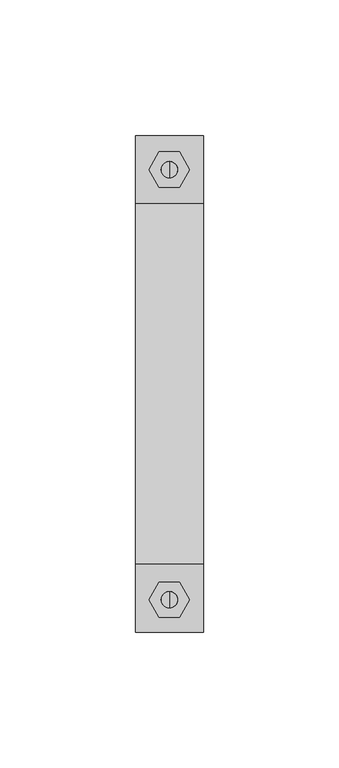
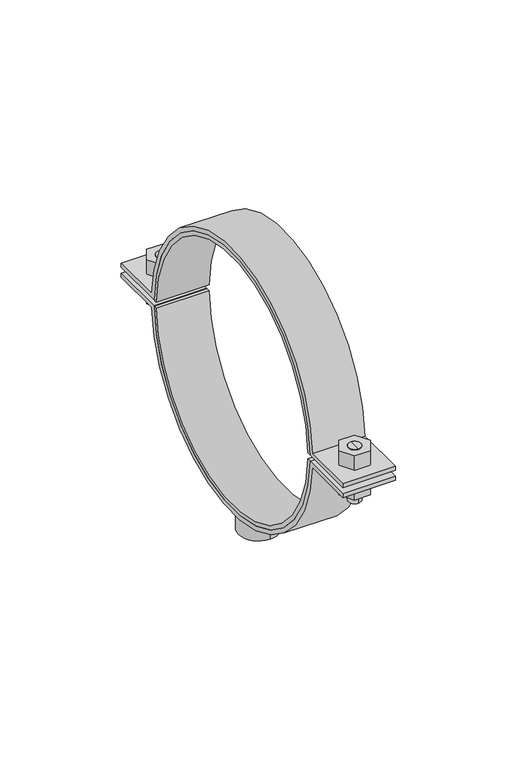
"""IFC4 building model written with IfcOpenShell, lengths in millimetres: valve geometry, Superfix DG2 Clamp Extra (based on pipe) : Superfix DG2 Clamp Extra (based on pipe)."""

from ifc_helpers import new_model, si_unit, point, frame, frame_2d, origin, origin_2d, place, context, project, spatial, polyline, circle_curve, trimmed, segment, composite_curve, outline, extrude, source, transform, mapped, element, save
from ifc_brep_helpers import plane_surface, cylinder_surface, advanced_brep


def valve_e243e0e9(model_context):
    return source(origin(), model_context, "Body", "SolidModel", [
        advanced_brep(
        [(0.0, 82.0, 342.4002332), (0.0, 76.0, 342.4002332), (0.0, 76.0, 357.0002332), (0.0, 82.0, 357.0002332), (0.0, 79.0, 342.4002332)],
        [
            (0, 1, circle_curve(frame((0.0, 79.0, 342.4002332), z_axis=(0.0, 0.0, 1.0), x_axis=(0.0, 1.0, 0.0)), 3.0)),
            (1, 2),
            (2, 3, circle_curve(frame((0.0, 79.0, 357.0002332), z_axis=(0.0, 0.0, -1.0), x_axis=(0.0, 1.0, 0.0)), 3.0)),
            (3, 0),
            (1, 0, circle_curve(frame((0.0, 79.0, 342.4002332), z_axis=(0.0, 0.0, 1.0), x_axis=(0.0, 1.0, 0.0)), 3.0)),
            (3, 2, circle_curve(frame((0.0, 79.0, 357.0002332), z_axis=(0.0, 0.0, -1.0), x_axis=(0.0, 1.0, 0.0)), 3.0)),
            (0, 4),
            (4, 1),
        ],
        [
            cylinder_surface(frame((0.0, 79.0, 356.7808426), z_axis=(0.0, 0.0, 1.0), x_axis=(0.0, 1.0, 0.0)), 3.0),
            plane_surface(frame((0.0, 79.0, 342.4002332), z_axis=(0.0, 0.0, -1.0), x_axis=(0.0, 1.0, 0.0))),
            plane_surface(frame((13.75, -91.5, 357.0002332), z_axis=(0.0, 0.0, 1.0), x_axis=(-1.0, 0.0, 0.0))),
        ],
        [
            (0, [[1, 2, 3, 4]]),
            (0, [[5, -4, 6, -2]]),
            (1, [[-1, 7, 8]]),
            (1, [[-5, -8, -7]]),
            (2, [[-3, -6]]),
        ],
    ),
        advanced_brep(
        [(0.0, 76.0, 369.6002332), (0.0, 82.0, 369.6002332), (0.0, 82.0, 360.0002332), (0.0, 76.0, 360.0002332), (0.0, 79.0, 369.6002332)],
        [
            (0, 1, circle_curve(frame((0.0, 79.0, 369.6002332), z_axis=(0.0, 0.0, -1.0), x_axis=(0.0, 1.0, 0.0)), 3.0)),
            (1, 2),
            (2, 3, circle_curve(frame((0.0, 79.0, 360.0002332), z_axis=(0.0, 0.0, 1.0), x_axis=(0.0, 1.0, 0.0)), 3.0)),
            (3, 0),
            (1, 0, circle_curve(frame((0.0, 79.0, 369.6002332), z_axis=(0.0, 0.0, -1.0), x_axis=(0.0, 1.0, 0.0)), 3.0)),
            (3, 2, circle_curve(frame((0.0, 79.0, 360.0002332), z_axis=(0.0, 0.0, 1.0), x_axis=(0.0, 1.0, 0.0)), 3.0)),
            (0, 4),
            (4, 1),
        ],
        [
            cylinder_surface(frame((0.0, 79.0, 356.7808426), z_axis=(0.0, 0.0, 1.0), x_axis=(0.0, 1.0, 0.0)), 3.0),
            plane_surface(frame((0.0, 79.0, 369.6002332), z_axis=(0.0, 0.0, 1.0), x_axis=(0.0, 1.0, 0.0))),
            plane_surface(frame((13.75, 91.5, 360.0002332), z_axis=(0.0, 0.0, -1.0), x_axis=(-1.0, 0.0, 0.0))),
        ],
        [
            (0, [[1, 2, 3, 4]]),
            (0, [[5, -4, 6, -2]]),
            (1, [[-1, 7, 8]]),
            (1, [[-5, -8, -7]]),
            (2, [[-3, -6]]),
        ],
    ),
        advanced_brep(
        [(0.0, -82.5, 369.6002332), (0.0, -76.5, 369.6002332), (0.0, -76.5, 360.0002332), (0.0, -82.5, 360.0002332), (0.0, -79.5, 369.6002332)],
        [
            (0, 1, circle_curve(frame((0.0, -79.5, 369.6002332), z_axis=(0.0, 0.0, -1.0), x_axis=(0.0, -1.0, 0.0)), 3.0)),
            (1, 2),
            (2, 3, circle_curve(frame((0.0, -79.5, 360.0002332), z_axis=(0.0, 0.0, 1.0), x_axis=(0.0, -1.0, 0.0)), 3.0)),
            (3, 0),
            (1, 0, circle_curve(frame((0.0, -79.5, 369.6002332), z_axis=(0.0, 0.0, -1.0), x_axis=(0.0, -1.0, 0.0)), 3.0)),
            (3, 2, circle_curve(frame((0.0, -79.5, 360.0002332), z_axis=(0.0, 0.0, 1.0), x_axis=(0.0, -1.0, 0.0)), 3.0)),
            (0, 4),
            (4, 1),
        ],
        [
            cylinder_surface(frame((0.0, -79.5, 356.7808426), z_axis=(0.0, 0.0, -1.0), x_axis=(0.0, -1.0, 0.0)), 3.0),
            plane_surface(frame((0.0, -79.5, 369.6002332), z_axis=(0.0, 0.0, 1.0), x_axis=(0.0, -1.0, 0.0))),
            plane_surface(frame((13.75, 91.5, 360.0002332), z_axis=(0.0, 0.0, -1.0), x_axis=(-1.0, 0.0, 0.0))),
        ],
        [
            (0, [[1, 2, 3, 4]]),
            (0, [[5, -4, 6, -2]]),
            (1, [[-1, 7, 8]]),
            (1, [[-5, -8, -7]]),
            (2, [[-3, -6]]),
        ],
    ),
        advanced_brep(
        [(0.0, -76.5, 342.4002332), (0.0, -82.5, 342.4002332), (0.0, -82.5, 357.0002332), (0.0, -76.5, 357.0002332), (0.0, -79.5, 342.4002332)],
        [
            (0, 1, circle_curve(frame((0.0, -79.5, 342.4002332), z_axis=(0.0, 0.0, 1.0), x_axis=(0.0, -1.0, 0.0)), 3.0)),
            (1, 2),
            (2, 3, circle_curve(frame((0.0, -79.5, 357.0002332), z_axis=(0.0, 0.0, -1.0), x_axis=(0.0, -1.0, 0.0)), 3.0)),
            (3, 0),
            (1, 0, circle_curve(frame((0.0, -79.5, 342.4002332), z_axis=(0.0, 0.0, 1.0), x_axis=(0.0, -1.0, 0.0)), 3.0)),
            (3, 2, circle_curve(frame((0.0, -79.5, 357.0002332), z_axis=(0.0, 0.0, -1.0), x_axis=(0.0, -1.0, 0.0)), 3.0)),
            (0, 4),
            (4, 1),
        ],
        [
            cylinder_surface(frame((0.0, -79.5, 356.7808426), z_axis=(0.0, 0.0, -1.0), x_axis=(0.0, -1.0, 0.0)), 3.0),
            plane_surface(frame((0.0, -79.5, 342.4002332), z_axis=(0.0, 0.0, -1.0), x_axis=(0.0, -1.0, 0.0))),
            plane_surface(frame((13.75, -91.5, 357.0002332), z_axis=(0.0, 0.0, 1.0), x_axis=(-1.0, 0.0, 0.0))),
        ],
        [
            (0, [[1, 2, 3, 4]]),
            (0, [[5, -4, 6, -2]]),
            (1, [[-1, 7, 8]]),
            (1, [[-5, -8, -7]]),
            (2, [[-3, -6]]),
        ],
    ),
        extrude(outline(composite_curve([segment(trimmed(circle_curve(frame_2d((0.0, 358.5002332)), 64.5), [point((-64.4825558, 357.0002332))], [point((64.4825558, 357.0002332))], True, "CARTESIAN"), True, "CONTINUOUS"), segment(polyline([(64.4825558, 357.0002332), (91.5, 357.0002332), (91.5, 355.0002332), (66.4078309, 355.0002332)]), True, "CONTINUOUS"), segment(trimmed(circle_curve(frame_2d((0.0, 358.5002332)), 66.5), [point((66.4078309, 355.0002332))], [point((-66.4078309, 355.0002332))], False, "CARTESIAN"), True, "CONTINUOUS"), segment(polyline([(-66.4078309, 355.0002332), (-91.5, 355.0002332), (-91.5, 357.0002332), (-64.4825558, 357.0002332)]), True, "CONTINUOUS")], self_intersect=False)), frame((-12.5, 0.0, 0.0), z_axis=(1.0, 0.0, 0.0), x_axis=(0.0, 1.0, 0.0)), (0.0, 0.0, 1.0), 25.0),
        extrude(outline(composite_curve([segment(trimmed(circle_curve(frame_2d((0.0, 358.5002332)), 64.5), [point((64.4825558, 360.0002332))], [point((-64.4825558, 360.0002332))], True, "CARTESIAN"), True, "CONTINUOUS"), segment(polyline([(-64.4825558, 360.0002332), (-91.5, 360.0002332), (-91.5, 362.0002332), (-66.4078309, 362.0002332)]), True, "CONTINUOUS"), segment(trimmed(circle_curve(frame_2d((0.0, 358.5002332)), 66.5), [point((-66.4078309, 362.0002332))], [point((66.4078309, 362.0002332))], False, "CARTESIAN"), True, "CONTINUOUS"), segment(polyline([(66.4078309, 362.0002332), (91.5, 362.0002332), (91.5, 360.0002332), (64.4825558, 360.0002332)]), True, "CONTINUOUS")], self_intersect=False)), frame((-12.5, 0.0, 0.0), z_axis=(1.0, 0.0, 0.0), x_axis=(0.0, 1.0, 0.0)), (0.0, 0.0, 1.0), 25.0),
        extrude(outline(polyline([(7.5055535, -79.5), (3.7527767, -86.0), (-3.7527767, -86.0), (-7.5055535, -79.5), (-3.7527767, -73.0), (3.7527767, -73.0), (7.5055535, -79.5)]), holes=[composite_curve([segment(trimmed(circle_curve(frame_2d((0.0, -79.5)), 3.0), [point((3.0, -79.5))], [point((-3.0, -79.5))], True, "CARTESIAN"), True, "CONTINUOUS"), segment(trimmed(circle_curve(frame_2d((0.0, -79.5)), 3.0), [point((-3.0, -79.5))], [point((3.0, -79.5))], True, "CARTESIAN"), True, "CONTINUOUS")], self_intersect=False)]), frame((0.0, 0.0, 362.0002332), z_axis=(0.0, 0.0, 1.0), x_axis=(1.0, 0.0, 0.0)), (0.0, 0.0, 1.0), 7.6),
        extrude(outline(polyline([(7.5055535, 79.0), (3.7527767, 72.5), (-3.7527767, 72.5), (-7.5055535, 79.0), (-3.7527767, 85.5), (3.7527767, 85.5), (7.5055535, 79.0)]), holes=[composite_curve([segment(trimmed(circle_curve(frame_2d((0.0, 79.0)), 3.0), [point((3.0, 79.0))], [point((-3.0, 79.0))], True, "CARTESIAN"), True, "CONTINUOUS"), segment(trimmed(circle_curve(frame_2d((0.0, 79.0)), 3.0), [point((-3.0, 79.0))], [point((3.0, 79.0))], True, "CARTESIAN"), True, "CONTINUOUS")], self_intersect=False)]), frame((0.0, 0.0, 362.0002332), z_axis=(0.0, 0.0, 1.0), x_axis=(1.0, 0.0, 0.0)), (0.0, 0.0, 1.0), 7.6),
        extrude(outline(polyline([(7.5055535, -79.5), (3.7527767, -86.0), (-3.7527767, -86.0), (-7.5055535, -79.5), (-3.7527767, -73.0), (3.7527767, -73.0), (7.5055535, -79.5)]), holes=[composite_curve([segment(trimmed(circle_curve(frame_2d((0.0, -79.5)), 3.0), [point((3.0, -79.5))], [point((-3.0, -79.5))], True, "CARTESIAN"), True, "CONTINUOUS"), segment(trimmed(circle_curve(frame_2d((0.0, -79.5)), 3.0), [point((-3.0, -79.5))], [point((3.0, -79.5))], True, "CARTESIAN"), True, "CONTINUOUS")], self_intersect=False)]), frame((0.0, 0.0, 347.4002332), z_axis=(0.0, 0.0, 1.0), x_axis=(1.0, 0.0, 0.0)), (0.0, 0.0, 1.0), 7.6),
        extrude(outline(polyline([(7.5055535, 79.0), (3.7527767, 72.5), (-3.7527767, 72.5), (-7.5055535, 79.0), (-3.7527767, 85.5), (3.7527767, 85.5), (7.5055535, 79.0)]), holes=[composite_curve([segment(trimmed(circle_curve(frame_2d((0.0, 79.0)), 3.0), [point((3.0, 79.0))], [point((-3.0, 79.0))], True, "CARTESIAN"), True, "CONTINUOUS"), segment(trimmed(circle_curve(frame_2d((0.0, 79.0)), 3.0), [point((-3.0, 79.0))], [point((3.0, 79.0))], True, "CARTESIAN"), True, "CONTINUOUS")], self_intersect=False)]), frame((0.0, 0.0, 347.4002332), z_axis=(0.0, 0.0, 1.0), x_axis=(1.0, 0.0, 0.0)), (0.0, 0.0, 1.0), 7.6),
        extrude(outline(composite_curve([segment(trimmed(circle_curve(origin_2d(), 9.5), [point((0.0, 9.5))], [point((0.0, -9.5))], False, "CARTESIAN"), True, "CONTINUOUS"), segment(trimmed(circle_curve(origin_2d(), 9.5), [point((0.0, -9.5))], [point((0.0, 9.5))], False, "CARTESIAN"), True, "CONTINUOUS")], self_intersect=False), holes=[composite_curve([segment(trimmed(circle_curve(origin_2d(), 6.0), [point((0.0, 6.0))], [point((0.0, -6.0))], True, "CARTESIAN"), True, "CONTINUOUS"), segment(trimmed(circle_curve(origin_2d(), 6.0), [point((0.0, -6.0))], [point((0.0, 6.0))], True, "CARTESIAN"), True, "CONTINUOUS")], self_intersect=False)]), frame((0.0, 0.0, 280.0002332), z_axis=(0.0, 0.0, 1.0), x_axis=(1.0, 0.0, 0.0)), (0.0, 0.0, 1.0), 14.0),
        extrude(outline(composite_curve([segment(trimmed(circle_curve(frame_2d((0.0, 358.5002332)), 62.5), [point((62.4819974, 360.0002332))], [point((-62.4819974, 360.0002332))], True, "CARTESIAN"), True, "CONTINUOUS"), segment(polyline([(-62.4819974, 360.0002332), (-64.4825558, 360.0002332)]), True, "CONTINUOUS"), segment(trimmed(circle_curve(frame_2d((0.0, 358.5002332)), 64.5), [point((-64.4825558, 360.0002332))], [point((64.4825558, 360.0002332))], False, "CARTESIAN"), True, "CONTINUOUS"), segment(polyline([(64.4825558, 360.0002332), (62.4819974, 360.0002332)]), True, "CONTINUOUS")], self_intersect=False)), frame((-12.5, 0.0, 0.0), z_axis=(1.0, 0.0, 0.0), x_axis=(0.0, 1.0, 0.0)), (0.0, 0.0, 1.0), 25.0),
        extrude(outline(composite_curve([segment(polyline([(62.4819974, 357.0002332), (64.4825558, 357.0002332)]), True, "CONTINUOUS"), segment(trimmed(circle_curve(frame_2d((0.0, 358.5002332)), 64.5), [point((64.4825558, 357.0002332))], [point((-64.4825558, 357.0002332))], False, "CARTESIAN"), True, "CONTINUOUS"), segment(polyline([(-64.4825558, 357.0002332), (-62.4819974, 357.0002332)]), True, "CONTINUOUS"), segment(trimmed(circle_curve(frame_2d((0.0, 358.5002332)), 62.5), [point((-62.4819974, 357.0002332))], [point((62.4819974, 357.0002332))], True, "CARTESIAN"), True, "CONTINUOUS")], self_intersect=False)), frame((-12.5, 0.0, 0.0), z_axis=(1.0, 0.0, 0.0), x_axis=(0.0, 1.0, 0.0)), (0.0, 0.0, 1.0), 25.0),
    ])


if __name__ == "__main__":
    model = new_model("IFC4")
    model_context = context("Model", 3, world=origin())
    ifc_project = project(units=[si_unit("LENGTHUNIT", "METRE", prefix="MILLI")], contexts=[model_context])
    site = spatial("IfcSite", under=ifc_project)
    building = spatial("IfcBuilding", under=site)
    placement = place(None, origin())
    valve_shape = valve_e243e0e9(model_context)
    element("IfcValve", 1, ObjectType="Superfix DG2 Clamp Extra (based on pipe) : Superfix DG2 Clamp Extra (based on pipe)", at=placement, inside=building, context=model_context, shape_type="MappedRepresentation", body=[
        mapped(valve_shape, transform((0.0, 0.0, 0.0), x_axis=(1.0, 0.0, 0.0), y_axis=(0.0, 1.0, 0.0), z_axis=(0.0, 0.0, 1.0))),
    ])
    save(model, "model.ifc")
